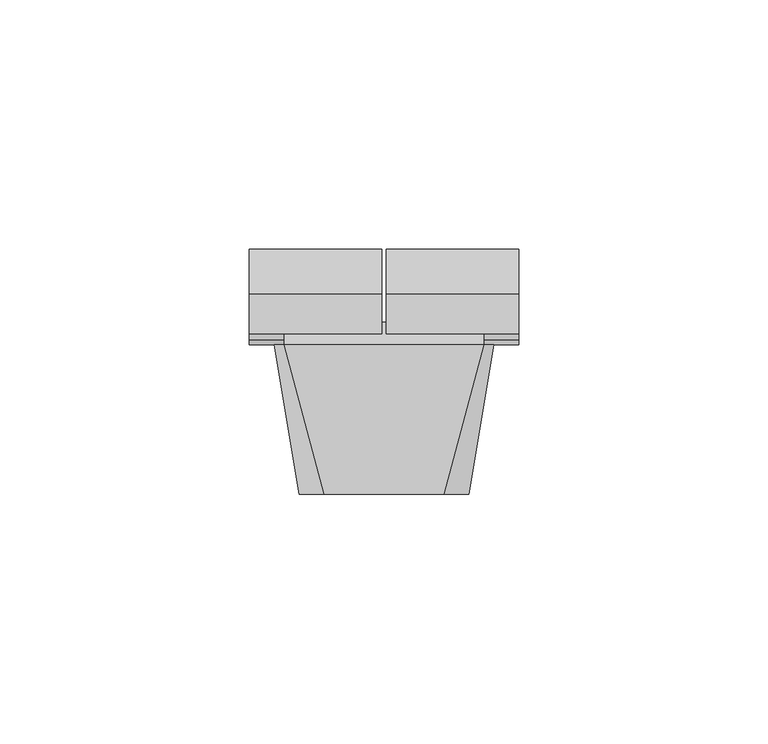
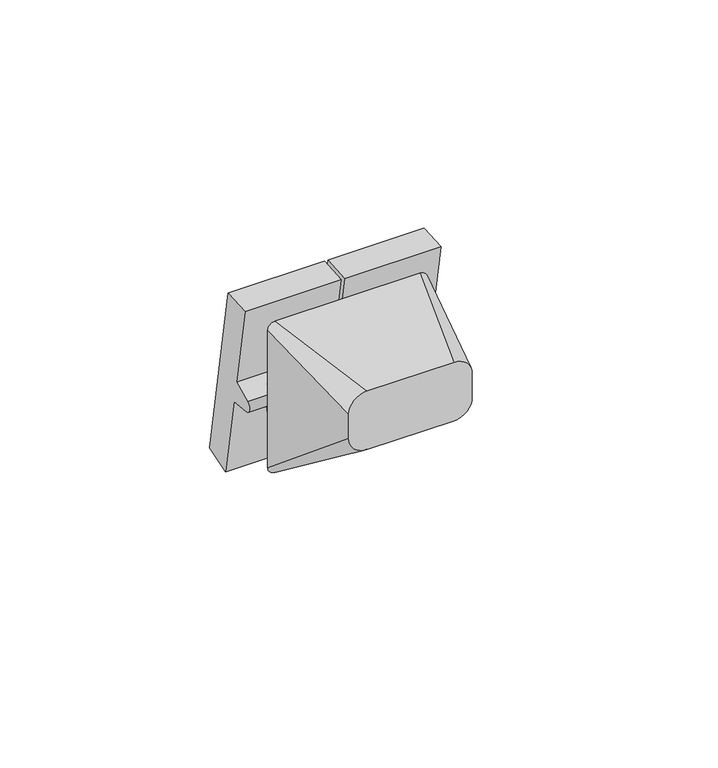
"""IFC4 building model written with IfcOpenShell, lengths in millimetres: proxy geometry, IEK_Brite_Механизм выключателя : В2_ВС10-2-0-БрА."""

from ifc_helpers import new_model, si_unit, point, frame, frame_2d, origin, place, context, project, spatial, polyline, circle_curve, trimmed, segment, composite_curve, outline, extrude, source, transform, mapped, element, save
from ifc_brep_helpers import plane_surface, spline_surface, advanced_brep


def electrical_fixtures_55b0cb72(model_context):
    return source(origin(), model_context, "Body", "SolidModel", [
        advanced_brep(
        [(-12.0, -30.0, 17.0), (-17.0, -30.0, 12.0), (-17.0, -30.0, 5.0), (-12.0, -30.0, 0.0), (12.0, -30.0, 0.0), (17.0, -30.0, 5.0), (17.0, -30.0, 12.0), (12.0, -30.0, 17.0), (20.0, 0.0, 22.0), (22.0, 0.0, 20.0), (22.0, 0.0, -20.0), (20.0, 0.0, -22.0), (-20.0, 0.0, -22.0), (-22.0, 0.0, -20.0), (-22.0, 0.0, 20.0), (-20.0, 0.0, 22.0), (20.0, 4.4942733, -3.0892494), (-20.0, 4.4942733, -3.0892494)],
        [
            (0, 1, circle_curve(frame((-12.0, -30.0, 12.0), z_axis=(0.0, -1.0, 0.0), x_axis=(1.0, 0.0, 0.0)), 5.0)),
            (1, 2),
            (2, 3, circle_curve(frame((-12.0, -30.0, 5.0), z_axis=(0.0, -1.0, 0.0), x_axis=(1.0, 0.0, 0.0)), 5.0)),
            (3, 4),
            (4, 5, circle_curve(frame((12.0, -30.0, 5.0), z_axis=(0.0, -1.0, 0.0), x_axis=(1.0, 0.0, 0.0)), 5.0)),
            (5, 6),
            (6, 7, circle_curve(frame((12.0, -30.0, 12.0), z_axis=(0.0, -1.0, 0.0), x_axis=(1.0, 0.0, 0.0)), 5.0)),
            (7, 0),
            (8, 9, circle_curve(frame((20.0, 0.0, 20.0), z_axis=(0.0, 1.0, 0.0), x_axis=(1.0, 0.0, 0.0)), 2.0)),
            (9, 10),
            (10, 11, circle_curve(frame((20.0, 0.0, -20.0), z_axis=(0.0, 1.0, 0.0), x_axis=(1.0, 0.0, 0.0)), 2.0)),
            (11, 8),
            (12, 13, circle_curve(frame((-20.0, 0.0, -20.0), z_axis=(0.0, 1.0, 0.0), x_axis=(1.0, 0.0, 0.0)), 2.0)),
            (13, 14),
            (14, 15, circle_curve(frame((-20.0, 0.0, 20.0), z_axis=(0.0, 1.0, 0.0), x_axis=(1.0, 0.0, 0.0)), 2.0)),
            (15, 12),
            (7, 8),
            (8, 15),
            (15, 0),
            (6, 9),
            (5, 10),
            (4, 11),
            (3, 12),
            (12, 11),
            (2, 13),
            (1, 14),
            (11, 16),
            (16, 8),
            (15, 17),
            (17, 12),
            (17, 16),
        ],
        [
            plane_surface(frame((0.0, -30.0, 8.5), z_axis=(0.0, -1.0, 0.0), x_axis=(-1.0, 0.0, 0.0))),
            plane_surface(frame((0.0, 0.0, 0.0), z_axis=(0.0, 1.0, 0.0), x_axis=(-1.0, 0.0, 0.0))),
            plane_surface(frame((0.0, 0.0, 22.0), z_axis=(0.0, -0.16439898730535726, 0.9863939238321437), x_axis=(-1.0, 0.0, 0.0))),
            spline_surface(2, 1, [[(22.0, 0.0, 20.0), (17.0, -30.0, 12.0)], [(22.0, 0.0, 22.0), (17.0, -30.0, 17.0)], [(20.0, 0.0, 22.0), (12.0, -30.0, 17.0)]], [3, 3], [2, 2], [0.0, 1.0], [0.0, 1.0], weights=[[1.0, 1.0], [0.7071067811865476, 0.7071067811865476], [1.0, 1.0]]),
            plane_surface(frame((22.0, 0.0, 0.0), z_axis=(0.9863939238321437, -0.1643989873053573, 0.0), x_axis=(0.0, 0.0, 1.0))),
            spline_surface(2, 1, [[(20.0, 0.0, -22.0), (12.0, -30.0, 0.0)], [(22.0, 0.0, -22.0), (17.0, -30.0, 0.0)], [(22.0, 0.0, -20.0), (17.0, -30.0, 5.0)]], [3, 3], [2, 2], [0.0, 1.0], [0.0, 1.0], weights=[[1.0, 1.0], [0.7071067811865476, 0.7071067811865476], [1.0, 1.0]]),
            plane_surface(frame((0.0, 0.0, -22.0), z_axis=(0.0, -0.591363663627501, -0.8064049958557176), x_axis=(1.0, 0.0, 0.0))),
            spline_surface(2, 1, [[(-22.0, 0.0, -20.0), (-17.0, -30.0, 5.0)], [(-22.0, 0.0, -22.0), (-17.0, -30.0, 0.0)], [(-20.0, 0.0, -22.0), (-12.0, -30.0, 0.0)]], [3, 3], [2, 2], [0.0, 1.0], [0.0, 1.0], weights=[[1.0, 1.0], [0.7071067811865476, 0.7071067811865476], [1.0, 1.0]]),
            plane_surface(frame((-22.0, 0.0, 0.0), z_axis=(-0.9863939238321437, -0.1643989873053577, 0.0), x_axis=(0.0, 0.0, -1.0))),
            spline_surface(2, 1, [[(-20.0, 0.0, 22.0), (-12.0, -30.0, 17.0)], [(-22.0, 0.0, 22.0), (-17.0, -30.0, 17.0)], [(-22.0, 0.0, 20.0), (-17.0, -30.0, 12.0)]], [3, 3], [2, 2], [0.0, 1.0], [0.0, 1.0], weights=[[1.0, 1.0], [0.7071067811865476, 0.7071067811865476], [1.0, 1.0]]),
            plane_surface(frame((20.0, 0.0, -22.0), z_axis=(1.0, 0.0, 0.0), x_axis=(0.0, 0.23121707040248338, 0.9729021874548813))),
            plane_surface(frame((-20.0, 0.0, -22.0), z_axis=(-1.0, 0.0, 0.0), x_axis=(0.0, -0.23121707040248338, -0.9729021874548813))),
            plane_surface(frame((20.0, 0.0, -22.0), z_axis=(0.0, 0.9729021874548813, -0.23121707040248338), x_axis=(-1.0, 0.0, 0.0))),
            plane_surface(frame((20.0, 4.4942733, -3.0892494), z_axis=(0.0, 0.9843320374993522, 0.17632481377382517), x_axis=(-1.0, 0.0, 0.0))),
        ],
        [
            (0, [[1, 2, 3, 4, 5, 6, 7, 8]]),
            (1, [[9, 10, 11, 12]]),
            (1, [[13, 14, 15, 16]]),
            (2, [[-8, 17, 18, 19]]),
            (3, [[-7, 20, -9, -17]]),
            (4, [[-6, 21, -10, -20]]),
            (5, [[-5, 22, -11, -21]]),
            (6, [[-4, 23, 24, -22]]),
            (7, [[-3, 25, -13, -23]]),
            (8, [[-2, 26, -14, -25]]),
            (9, [[-1, -19, -15, -26]]),
            (10, [[27, 28, -12]]),
            (11, [[29, 30, -16]]),
            (12, [[-27, -24, -30, 31]]),
            (13, [[-28, -31, -29, -18]]),
        ],
    ),
        extrude(outline(composite_curve([segment(polyline([(19.1247035, -24.1237652), (11.4236286, -26.3320129), (7.3756597, -3.3748404), (1.5972872, -2.8692983)]), True, "CONTINUOUS"), segment(trimmed(circle_curve(frame_2d((1.7530049, -1.0894363)), 1.7866608), [point((1.5972872, -2.8692983))], [point((0.9979294, 0.5298284))], False, "CARTESIAN"), True, "CONTINUOUS"), segment(polyline([(0.9979294, 0.5298284), (6.2549179, 2.9812023), (2.206949, 25.9383748), (10.1988574, 26.4972235), (19.1247035, -24.1237652)]), True, "CONTINUOUS")], self_intersect=False)), frame((-27.0, 0.0, 0.0), z_axis=(1.0, 0.0, 0.0), x_axis=(0.0, 1.0, 0.0)), (0.0, 0.0, 1.0), 26.5),
        extrude(outline(composite_curve([segment(polyline([(19.1247035, -24.1237652), (11.4236286, -26.3320129), (7.3756597, -3.3748404), (1.5972872, -2.8692983)]), True, "CONTINUOUS"), segment(trimmed(circle_curve(frame_2d((1.7530049, -1.0894363)), 1.7866608), [point((1.5972872, -2.8692983))], [point((0.9979294, 0.5298284))], False, "CARTESIAN"), True, "CONTINUOUS"), segment(polyline([(0.9979294, 0.5298284), (6.2549179, 2.9812023), (2.206949, 25.9383748), (10.1988574, 26.4972235), (19.1247035, -24.1237652)]), True, "CONTINUOUS")], self_intersect=False)), frame((0.5, 0.0, 0.0), z_axis=(1.0, 0.0, 0.0), x_axis=(0.0, 1.0, 0.0)), (0.0, 0.0, 1.0), 26.5),
    ])


if __name__ == "__main__":
    model = new_model("IFC4")
    model_context = context("Model", 3, world=origin())
    ifc_project = project(units=[si_unit("LENGTHUNIT", "METRE", prefix="MILLI")], contexts=[model_context])
    site = spatial("IfcSite", under=ifc_project)
    building = spatial("IfcBuilding", under=site)
    placement = place(None, origin())
    electrical_fixtures_shape = electrical_fixtures_55b0cb72(model_context)
    element("IfcBuildingElementProxy", 1, Name="IEK_Brite_Механизм выключателя : В2_ВС10-2-0-БрА", ObjectType="IEK_Brite_Механизм выключателя : В2_ВС10-2-0-БрА", at=placement, inside=building, context=model_context, shape_type="MappedRepresentation", body=[
        mapped(electrical_fixtures_shape, transform((0.0, 0.0, 0.0), x_axis=(1.0, 0.0, 0.0), y_axis=(0.0, 1.0, 0.0), z_axis=(0.0, 0.0, 1.0))),
    ])
    save(model, "model.ifc")
